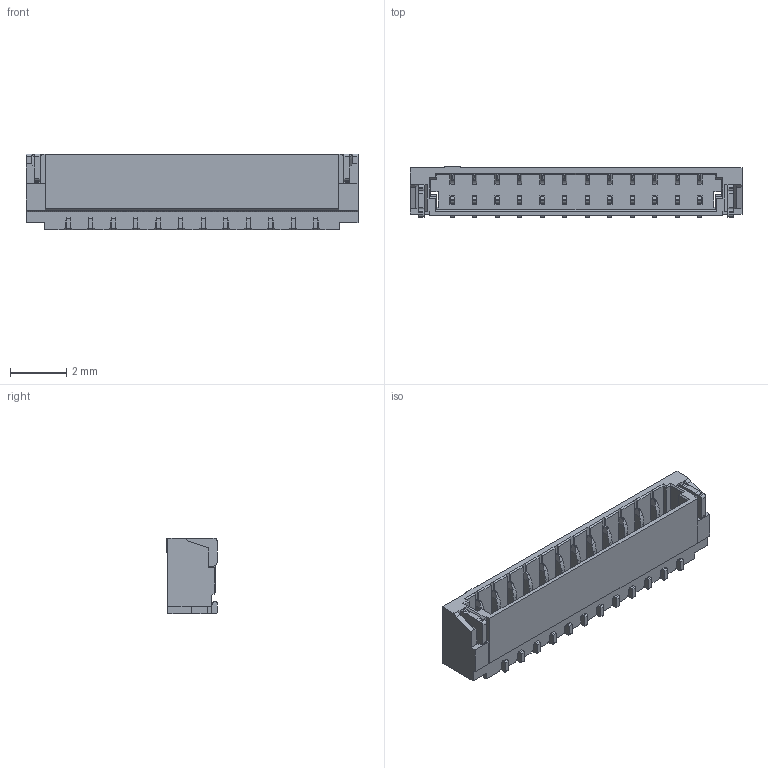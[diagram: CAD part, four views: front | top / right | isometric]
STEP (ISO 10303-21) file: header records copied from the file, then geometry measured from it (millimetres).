
FILE_DESCRIPTION((''),'2;1');
FILE_NAME('SCT0800WRS-12','2023-04-10T16:02:39',('Administrator'),(''),'CREO PARAMETRIC BY PTC INC, 2018050','CREO PARAMETRIC BY PTC INC, 2018050','');
FILE_SCHEMA(('CONFIG_CONTROL_DESIGN'));
Length unit declared in the file: millimetre
Products named in the file (1): SCT0800WRS-12
Bounding box: 11.8 x 1.78 x 2.7 mm (x, y, z)
Volume: 30.2 mm3; surface area: 222.4 mm2
Topology: 1 solids, 1 shells, 944 faces, 3013 edges, 1936 vertices
Faces by surface type: plane 620, cylinder 324
Entity records: 33713 total; most frequent: CARTESIAN_POINT 6735, ORIENTED_EDGE 6026, DIRECTION 5277, EDGE_CURVE 3013, VECTOR 2341, LINE 2341, VERTEX_POINT 1936, AXIS2_PLACEMENT_3D 1468
